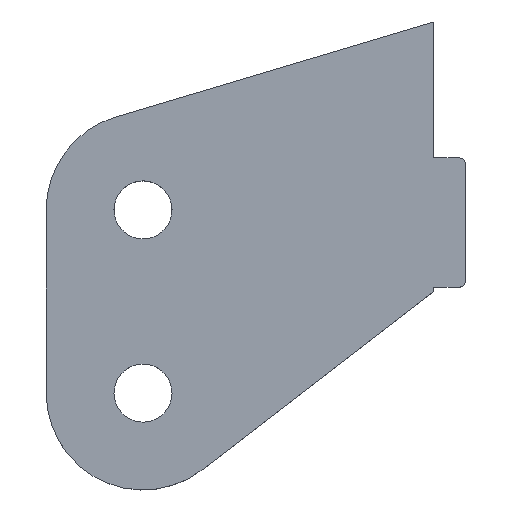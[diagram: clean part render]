
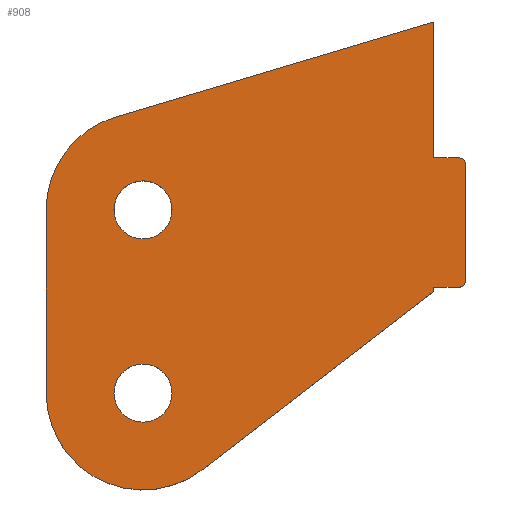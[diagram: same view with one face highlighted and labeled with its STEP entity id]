
A CAD part, top view. The second image highlights one B-rep face of the part: STEP entity #908.
In plain terms, the highlighted planar face has unit normal (0, 0, 1).
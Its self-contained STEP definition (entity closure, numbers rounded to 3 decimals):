
#423=CIRCLE('',#859,1.);
#425=CIRCLE('',#863,1.);
#427=CIRCLE('',#869,15.);
#429=CIRCLE('',#873,15.);
#432=CIRCLE('',#880,4.5);
#433=CIRCLE('',#882,4.5);
#504=ORIENTED_EDGE('',*,*,#607,.T.);
#505=ORIENTED_EDGE('',*,*,#639,.T.);
#506=ORIENTED_EDGE('',*,*,#637,.T.);
#507=ORIENTED_EDGE('',*,*,#634,.F.);
#508=ORIENTED_EDGE('',*,*,#631,.F.);
#509=ORIENTED_EDGE('',*,*,#628,.T.);
#510=ORIENTED_EDGE('',*,*,#625,.T.);
#511=ORIENTED_EDGE('',*,*,#622,.T.);
#512=ORIENTED_EDGE('',*,*,#619,.F.);
#513=ORIENTED_EDGE('',*,*,#616,.F.);
#514=ORIENTED_EDGE('',*,*,#613,.T.);
#515=ORIENTED_EDGE('',*,*,#610,.F.);
#516=ORIENTED_EDGE('',*,*,#642,.F.);
#517=ORIENTED_EDGE('',*,*,#643,.F.);
#523=VECTOR('',#693,1.);
#527=VECTOR('',#705,1.);
#531=VECTOR('',#717,1.);
#534=VECTOR('',#722,1.);
#537=VECTOR('',#727,1.);
#541=VECTOR('',#739,1.);
#545=VECTOR('',#751,1.);
#547=VECTOR('',#755,1.);
#551=LINE('',#780,#523);
#555=LINE('',#792,#527);
#559=LINE('',#804,#531);
#562=LINE('',#810,#534);
#565=LINE('',#816,#537);
#569=LINE('',#828,#541);
#573=LINE('',#840,#545);
#575=LINE('',#843,#547);
#577=VERTEX_POINT('',#774);
#579=VERTEX_POINT('',#778);
#581=VERTEX_POINT('',#783);
#583=VERTEX_POINT('',#789);
#585=VERTEX_POINT('',#795);
#587=VERTEX_POINT('',#801);
#589=VERTEX_POINT('',#807);
#591=VERTEX_POINT('',#813);
#593=VERTEX_POINT('',#819);
#595=VERTEX_POINT('',#825);
#597=VERTEX_POINT('',#831);
#599=VERTEX_POINT('',#837);
#602=VERTEX_POINT('',#850);
#603=VERTEX_POINT('',#853);
#607=EDGE_CURVE('',#577,#579,#551,.T.);
#610=EDGE_CURVE('',#577,#581,#423,.T.);
#613=EDGE_CURVE('',#583,#581,#555,.T.);
#616=EDGE_CURVE('',#583,#585,#425,.T.);
#619=EDGE_CURVE('',#585,#587,#559,.T.);
#622=EDGE_CURVE('',#589,#587,#562,.T.);
#625=EDGE_CURVE('',#591,#589,#565,.T.);
#628=EDGE_CURVE('',#593,#591,#427,.T.);
#631=EDGE_CURVE('',#593,#595,#569,.T.);
#634=EDGE_CURVE('',#595,#597,#429,.T.);
#637=EDGE_CURVE('',#599,#597,#573,.T.);
#639=EDGE_CURVE('',#579,#599,#575,.T.);
#642=EDGE_CURVE('',#602,#602,#432,.T.);
#643=EDGE_CURVE('',#603,#603,#433,.T.);
#661=EDGE_LOOP('',(#504,#505,#506,#507,#508,#509,#510,#511,#512,#513,#514,
#515));
#662=EDGE_LOOP('',(#516));
#663=EDGE_LOOP('',(#517));
#683=FACE_BOUND('',#661,.T.);
#684=FACE_BOUND('',#662,.T.);
#685=FACE_BOUND('',#663,.T.);
#693=DIRECTION('',(-4.,0.,0.));
#699=DIRECTION('',(0.,0.,-1.));
#700=DIRECTION('',(0.,-1.,0.));
#705=DIRECTION('',(0.,18.,0.));
#711=DIRECTION('',(0.,0.,-1.));
#712=DIRECTION('',(0.,-1.,0.));
#717=DIRECTION('',(-4.,0.,0.));
#722=DIRECTION('',(0.,0.7,0.));
#727=DIRECTION('',(35.848,27.607,0.));
#733=DIRECTION('',(0.,0.,1.));
#734=DIRECTION('',(0.,15.,0.));
#739=DIRECTION('',(0.,28.373,0.));
#745=DIRECTION('',(0.,0.,-1.));
#746=DIRECTION('',(0.,-15.,0.));
#751=DIRECTION('',(-49.296,-14.735,0.));
#755=DIRECTION('',(0.,21.057,0.));
#764=DIRECTION('',(0.,0.,1.));
#765=DIRECTION('',(0.,-4.5,0.));
#766=DIRECTION('',(0.,0.,1.));
#767=DIRECTION('',(0.,-1.,0.));
#768=DIRECTION('',(0.,0.,1.));
#769=DIRECTION('',(0.,-4.5,0.));
#774=CARTESIAN_POINT('',(5813.504,13836.36,8.));
#778=CARTESIAN_POINT('',(5809.504,13836.36,8.));
#780=CARTESIAN_POINT('',(5813.504,13836.36,8.));
#783=CARTESIAN_POINT('',(5814.504,13835.36,8.));
#786=CARTESIAN_POINT('',(5813.504,13835.36,8.));
#789=CARTESIAN_POINT('',(5814.504,13817.36,8.));
#792=CARTESIAN_POINT('',(5814.504,13817.36,8.));
#795=CARTESIAN_POINT('',(5813.504,13816.36,8.));
#798=CARTESIAN_POINT('',(5813.504,13817.36,8.));
#801=CARTESIAN_POINT('',(5809.504,13816.36,8.));
#804=CARTESIAN_POINT('',(5813.504,13816.36,8.));
#807=CARTESIAN_POINT('',(5809.504,13815.66,8.));
#810=CARTESIAN_POINT('',(5809.504,13815.66,8.));
#813=CARTESIAN_POINT('',(5773.656,13788.054,8.));
#816=CARTESIAN_POINT('',(5773.656,13788.054,8.));
#819=CARTESIAN_POINT('',(5749.504,13799.938,8.));
#822=CARTESIAN_POINT('',(5764.504,13799.938,8.));
#825=CARTESIAN_POINT('',(5749.504,13828.311,8.));
#828=CARTESIAN_POINT('',(5749.504,13799.938,8.));
#831=CARTESIAN_POINT('',(5760.208,13842.682,8.));
#834=CARTESIAN_POINT('',(5764.504,13828.311,8.));
#837=CARTESIAN_POINT('',(5809.504,13857.417,8.));
#840=CARTESIAN_POINT('',(5809.504,13857.417,8.));
#843=CARTESIAN_POINT('',(5809.504,13836.36,8.));
#850=CARTESIAN_POINT('',(5764.504,13823.811,8.));
#851=CARTESIAN_POINT('',(5764.504,13828.311,8.));
#852=CARTESIAN_POINT('',(0.,0.,8.));
#853=CARTESIAN_POINT('',(5764.504,13795.438,8.));
#854=CARTESIAN_POINT('',(5764.504,13799.938,8.));
#859=AXIS2_PLACEMENT_3D('',#786,#699,#700);
#863=AXIS2_PLACEMENT_3D('',#798,#711,#712);
#869=AXIS2_PLACEMENT_3D('',#822,#733,#734);
#873=AXIS2_PLACEMENT_3D('',#834,#745,#746);
#880=AXIS2_PLACEMENT_3D('',#851,#764,#765);
#881=AXIS2_PLACEMENT_3D('',#852,#766,#767);
#882=AXIS2_PLACEMENT_3D('',#854,#768,#769);
#893=PLANE('',#881);
#908=ADVANCED_FACE('',(#683,#684,#685),#893,.T.);
